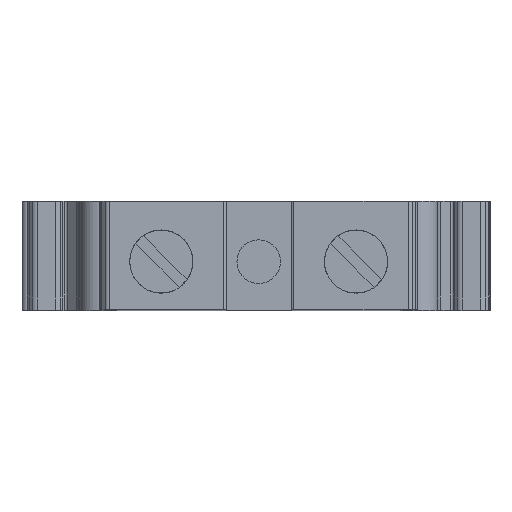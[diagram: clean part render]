
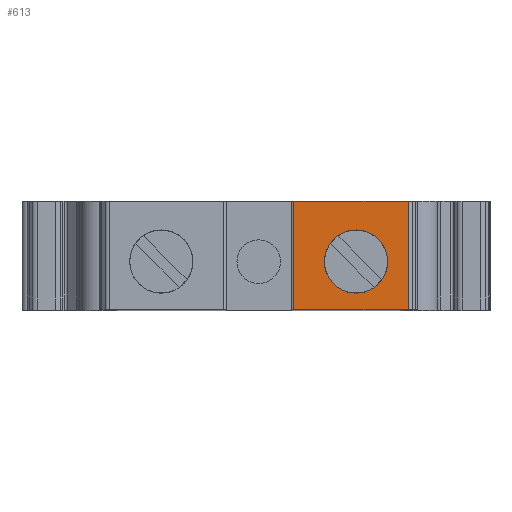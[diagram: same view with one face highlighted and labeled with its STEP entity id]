
A CAD part, top view. The second image highlights one B-rep face of the part: STEP entity #613.
In plain terms, the highlighted planar face has unit normal (0, 0, 1).
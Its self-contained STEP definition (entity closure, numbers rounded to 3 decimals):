
#613 = ADVANCED_FACE( '', ( #1228, #1229 ), #1230, .F. );
#1228 = FACE_OUTER_BOUND( '', #1838, .T. );
#1229 = FACE_BOUND( '', #1839, .T. );
#1230 = PLANE( '', #1840 );
#1838 = EDGE_LOOP( '', ( #3723, #3724, #3725, #3726 ) );
#1839 = EDGE_LOOP( '', ( #3727 ) );
#1840 = AXIS2_PLACEMENT_3D( '', #3728, #3729, #3730 );
#3723 = ORIENTED_EDGE( '', *, *, #4016, .T. );
#3724 = ORIENTED_EDGE( '', *, *, #4171, .F. );
#3725 = ORIENTED_EDGE( '', *, *, #4449, .F. );
#3726 = ORIENTED_EDGE( '', *, *, #4173, .T. );
#3727 = ORIENTED_EDGE( '', *, *, #4498, .F. );
#3728 = CARTESIAN_POINT( '', ( -5.5, 10., 40.35 ) );
#3729 = DIRECTION( '', ( 0., 0., -1. ) );
#3730 = DIRECTION( '', ( -1., 0., 0. ) );
#4016 = EDGE_CURVE( '', #4956, #4954, #4957, .T. );
#4171 = EDGE_CURVE( '', #5203, #4954, #5205, .T. );
#4173 = EDGE_CURVE( '', #5207, #4956, #5208, .T. );
#4449 = EDGE_CURVE( '', #5207, #5203, #5566, .T. );
#4498 = EDGE_CURVE( '', #5615, #5615, #5616, .T. );
#4954 = VERTEX_POINT( '', #6224 );
#4956 = VERTEX_POINT( '', #6226 );
#4957 = LINE( '', #6227, #6228 );
#5203 = VERTEX_POINT( '', #6560 );
#5205 = LINE( '', #6562, #6563 );
#5207 = VERTEX_POINT( '', #6565 );
#5208 = LINE( '', #6566, #6567 );
#5566 = LINE( '', #7068, #7069 );
#5615 = VERTEX_POINT( '', #7130 );
#5616 = CIRCLE( '', #7131, 2.9 );
#6224 = CARTESIAN_POINT( '', ( -3.596, 0., 40.35 ) );
#6226 = CARTESIAN_POINT( '', ( -14.15, 0., 40.35 ) );
#6227 = CARTESIAN_POINT( '', ( -5.5, 0., 40.35 ) );
#6228 = VECTOR( '', #7458, 1000. );
#6560 = CARTESIAN_POINT( '', ( -3.596, 10., 40.35 ) );
#6562 = CARTESIAN_POINT( '', ( -3.596, 10., 40.35 ) );
#6563 = VECTOR( '', #7701, 1000. );
#6565 = CARTESIAN_POINT( '', ( -14.15, 10., 40.35 ) );
#6566 = CARTESIAN_POINT( '', ( -14.15, 10., 40.35 ) );
#6567 = VECTOR( '', #7702, 1000. );
#7068 = CARTESIAN_POINT( '', ( -14.15, 10., 40.35 ) );
#7069 = VECTOR( '', #7999, 1000. );
#7130 = CARTESIAN_POINT( '', ( -5.5, 4.45, 40.35 ) );
#7131 = AXIS2_PLACEMENT_3D( '', #8012, #8013, #8014 );
#7458 = DIRECTION( '', ( 1., 0., 0. ) );
#7701 = DIRECTION( '', ( 0., -1., 0. ) );
#7702 = DIRECTION( '', ( 0., -1., 0. ) );
#7999 = DIRECTION( '', ( 1., 0., 0. ) );
#8012 = CARTESIAN_POINT( '', ( -8.4, 4.45, 40.35 ) );
#8013 = DIRECTION( '', ( 0., 0., 1. ) );
#8014 = DIRECTION( '', ( 1., 0., 0. ) );
